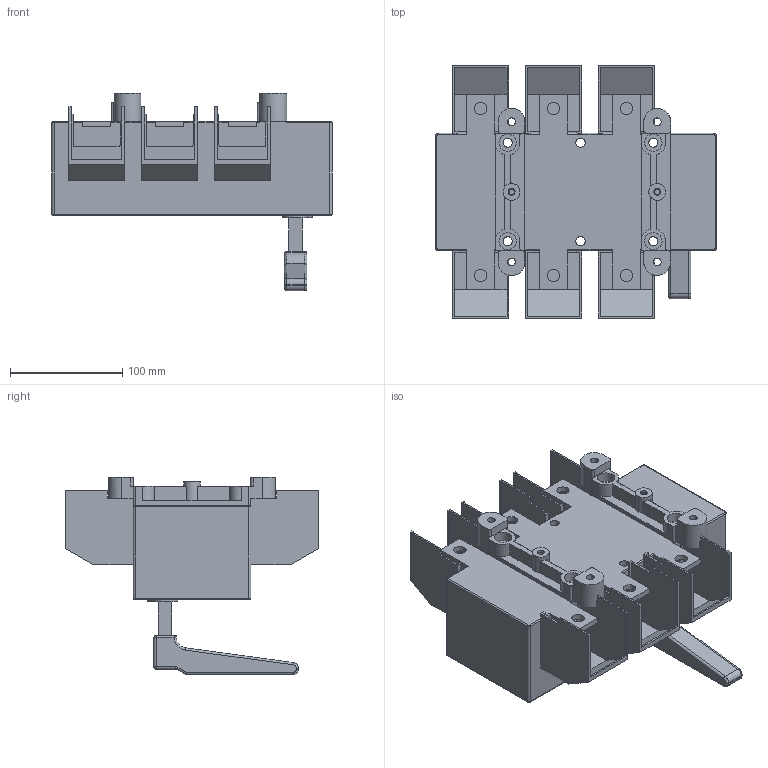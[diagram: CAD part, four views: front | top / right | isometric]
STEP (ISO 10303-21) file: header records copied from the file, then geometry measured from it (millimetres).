
FILE_DESCRIPTION(/* description */ (''),/* implementation_level */ '2;1');
FILE_NAME(/* name */ 'RA630 P3-R z oslona zaciskow.stp',/* time_stamp */ '2021-08-19T07:36:09+02:00',/* author */ (''),/* organization */ (''),/* preprocessor_version */ 'ST-DEVELOPER v18.1',/* originating_system */ 'SIEMENS PLM Software NX 1965',/* authorisation */ '');
FILE_SCHEMA (('AUTOMOTIVE_DESIGN { 1 0 10303 214 3 1 1 1 }'));
Length unit declared in the file: millimetre
Products named in the file (1): RA630 P3-R z oslona zaciskow_stp
Bounding box: 250 x 225 x 176 mm (x, y, z)
Volume: 2443682.3 mm3; surface area: 299582.3 mm2
Topology: 1 solids, 1 shells, 408 faces, 1159 edges, 746 vertices
Faces by surface type: plane 265, cylinder 121, torus 13, sphere 6, bspline 3
Full cylindrical faces by diameter (mm): 4.8 x2, 6.2 x2, 7 x4, 8.2 x6, 11 x6, 14 x4, 15 x2, 15.5 x4
Entity records: 13008 total; most frequent: CARTESIAN_POINT 2327, ORIENTED_EDGE 2218, DIRECTION 2199, EDGE_CURVE 1109, LINE 823, VECTOR 823, VERTEX_POINT 732, AXIS2_PLACEMENT_3D 688
